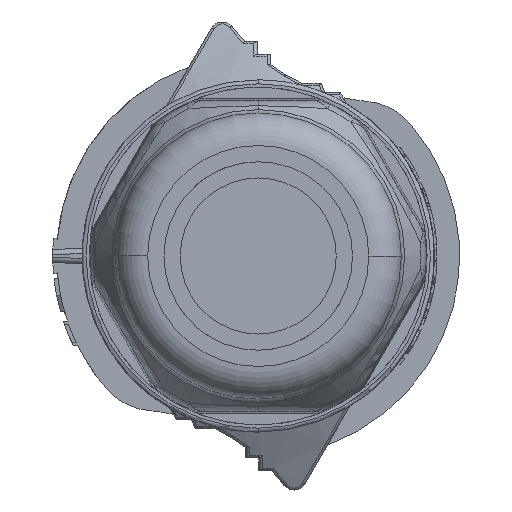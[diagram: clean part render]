
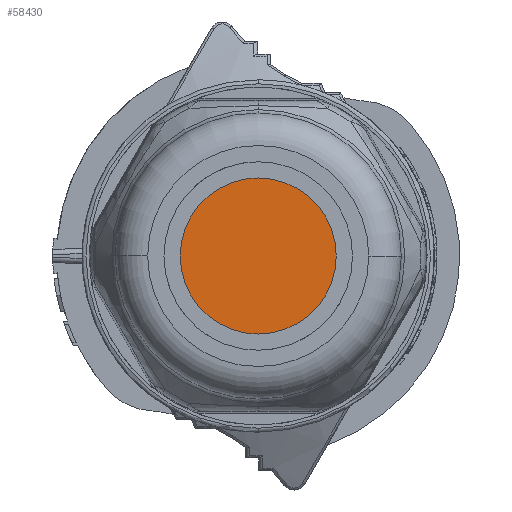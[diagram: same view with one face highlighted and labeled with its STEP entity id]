
A CAD part, left-side view. The second image highlights one B-rep face of the part: STEP entity #58430.
In plain terms, the highlighted planar face has unit normal (-1, 0, 0).
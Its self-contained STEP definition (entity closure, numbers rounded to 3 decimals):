
#21455=CARTESIAN_POINT('',(0.01,0.,0.));
#21456=DIRECTION('',(-1.,0.,0.));
#21457=DIRECTION('',(0.,-1.,0.));
#21458=AXIS2_PLACEMENT_3D('',#21455,#21456,#21457);
#21460=CARTESIAN_POINT('',(0.01,0.,0.));
#21461=DIRECTION('',(-1.,0.,0.));
#21462=DIRECTION('',(0.,1.,0.));
#21463=AXIS2_PLACEMENT_3D('',#21460,#21461,#21462);
#27018=CARTESIAN_POINT('',(0.01,-8.235,
0.));
#27019=CARTESIAN_POINT('',(0.01,8.235,
0.));
#27020=VERTEX_POINT('',#27018);
#27021=VERTEX_POINT('',#27019);
#58420=CARTESIAN_POINT('',(0.01,0.259,0.));
#58421=DIRECTION('',(1.,0.,0.));
#58422=DIRECTION('',(0.,1.,0.));
#58423=AXIS2_PLACEMENT_3D('',#58420,#58421,#58422);
#58424=PLANE('',#58423);
#58425=ORIENTED_EDGE('',*,*,#58410,.F.);
#58427=ORIENTED_EDGE('',*,*,#58426,.F.);
#58428=EDGE_LOOP('',(#58425,#58427));
#58429=FACE_OUTER_BOUND('',#58428,.F.);
#58430=ADVANCED_FACE('',(#58429),#58424,.F.);
#21459=CIRCLE('',#21458,8.235);
#21464=CIRCLE('',#21463,8.235);
#58410=EDGE_CURVE('',#27020,#27021,#21459,.T.);
#58426=EDGE_CURVE('',#27021,#27020,#21464,.T.);
